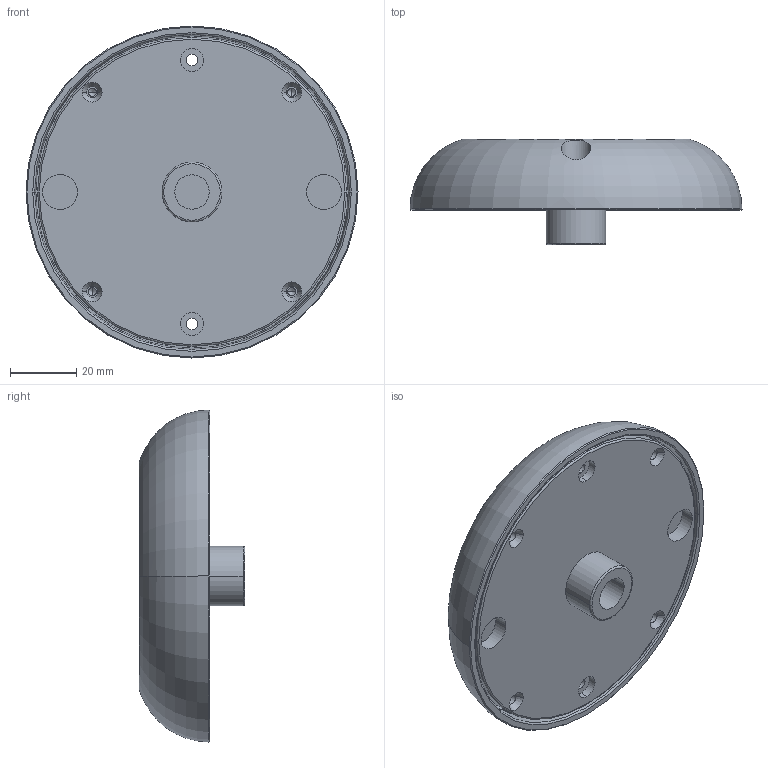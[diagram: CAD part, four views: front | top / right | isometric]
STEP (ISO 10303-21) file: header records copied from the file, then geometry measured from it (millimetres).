
FILE_DESCRIPTION((''),'2;1');
FILE_NAME('CNC99-UP_SW0001','2025-07-31T09:16:50',('Manenti'),(''),'CREO PARAMETRIC BY PTC INC, 2025010','CREO PARAMETRIC BY PTC INC, 2025010','');
FILE_SCHEMA(('CONFIG_CONTROL_DESIGN'));
Length unit declared in the file: millimetre
Products named in the file (1): CNC99-UP_SW0001
Bounding box: 100 x 31.8 x 100 mm (x, y, z)
Surface area: 38674 mm2 (no closed solid volume)
Topology: 0 solids, 13 shells, 200 faces, 610 edges, 420 vertices
Faces by surface type: cylinder 68, cone 42, bspline 34, plane 22, torus 22, extrusion 8, revolution 4
Entity records: 11897 total; most frequent: CARTESIAN_POINT 6546, DIRECTION 1164, ORIENTED_EDGE 1004, EDGE_CURVE 598, AXIS2_PLACEMENT_3D 508, VERTEX_POINT 420, CIRCLE 354, EDGE_LOOP 242
